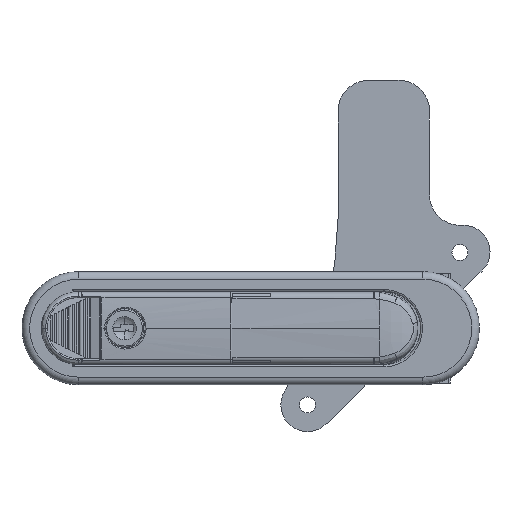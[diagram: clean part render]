
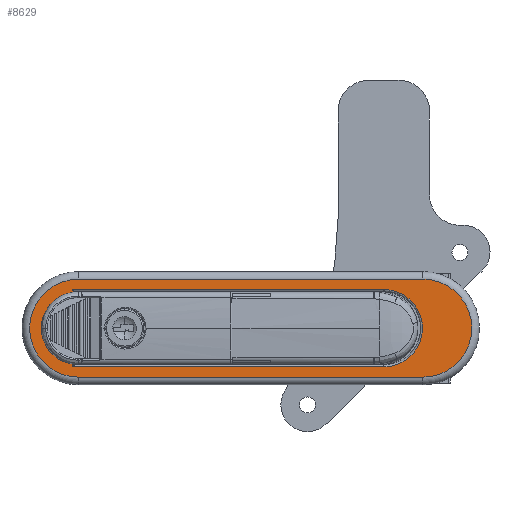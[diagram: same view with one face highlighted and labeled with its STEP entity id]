
A CAD part, front view. The second image highlights one B-rep face of the part: STEP entity #8629.
In plain terms, the highlighted planar face has unit normal (0, -1, 0).
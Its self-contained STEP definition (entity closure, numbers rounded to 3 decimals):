
#865 = VERTEX_POINT ( 'NONE', #16072 ) ;
#2056 = VERTEX_POINT ( 'NONE', #43994 ) ;
#2200 = AXIS2_PLACEMENT_3D ( 'NONE', #45997, #7173, #34847 ) ;
#3390 = EDGE_CURVE ( 'NONE', #11143, #19644, #41270, .T. ) ;
#3420 = EDGE_LOOP ( 'NONE', ( #35296, #30143, #23503, #8283 ) ) ;
#3877 = DIRECTION ( 'NONE',  ( 0., 0., -1. ) ) ;
#3902 = EDGE_CURVE ( 'NONE', #11143, #49751, #34003, .T. ) ;
#4091 = AXIS2_PLACEMENT_3D ( 'NONE', #46299, #11538, #3877 ) ;
#6402 = VECTOR ( 'NONE', #18497, 1000. ) ;
#6450 = AXIS2_PLACEMENT_3D ( 'NONE', #45875, #42071, #7297 ) ;
#7173 = DIRECTION ( 'NONE',  ( 0., 1., 0. ) ) ;
#7297 = DIRECTION ( 'NONE',  ( 0., 0., 1. ) ) ;
#7796 = LINE ( 'NONE', #30164, #6402 ) ;
#8283 = ORIENTED_EDGE ( 'NONE', *, *, #35839, .T. ) ;
#8629 = ADVANCED_FACE ( 'NONE', ( #46746, #19864 ), #42943, .F. ) ;
#9825 = CIRCLE ( 'NONE', #4091, 10.15 ) ;
#10496 = CARTESIAN_POINT ( 'NONE',  ( -50.55, 0., 12.85 ) ) ;
#10755 = CARTESIAN_POINT ( 'NONE',  ( 29.5, 0., -10.15 ) ) ;
#11143 = VERTEX_POINT ( 'NONE', #23247 ) ;
#11538 = DIRECTION ( 'NONE',  ( 0., -1., 0. ) ) ;
#11821 = CARTESIAN_POINT ( 'NONE',  ( -52.13, 0., 10.15 ) ) ;
#12783 = DIRECTION ( 'NONE',  ( 0., 0., 1. ) ) ;
#13117 = DIRECTION ( 'NONE',  ( 0., 0., 1. ) ) ;
#13169 = EDGE_CURVE ( 'NONE', #25464, #865, #49524, .T. ) ;
#13187 = CARTESIAN_POINT ( 'NONE',  ( -52.13, 0., 10.15 ) ) ;
#13555 = CARTESIAN_POINT ( 'NONE',  ( 29.5, 0., 0. ) ) ;
#14486 = DIRECTION ( 'NONE',  ( -0.145, 0., -0.989 ) ) ;
#14536 = EDGE_CURVE ( 'NONE', #30667, #48401, #7796, .T. ) ;
#15232 = VECTOR ( 'NONE', #39468, 1000. ) ;
#15377 = VECTOR ( 'NONE', #33636, 1000. ) ;
#16072 = CARTESIAN_POINT ( 'NONE',  ( -52.13, 0., 9.103 ) ) ;
#17789 = VERTEX_POINT ( 'NONE', #18046 ) ;
#18046 = CARTESIAN_POINT ( 'NONE',  ( 29.672, 0., 10.149 ) ) ;
#18163 = CARTESIAN_POINT ( 'NONE',  ( -50.55, 0., -12.85 ) ) ;
#18497 = DIRECTION ( 'NONE',  ( -1., 0., 0. ) ) ;
#18927 = CARTESIAN_POINT ( 'NONE',  ( 29.75, 0., 12.85 ) ) ;
#19509 = EDGE_CURVE ( 'NONE', #48401, #25464, #44248, .T. ) ;
#19644 = VERTEX_POINT ( 'NONE', #10496 ) ;
#19695 = EDGE_CURVE ( 'NONE', #30667, #17789, #41087, .T. ) ;
#19864 = FACE_OUTER_BOUND ( 'NONE', #3420, .T. ) ;
#20063 = VERTEX_POINT ( 'NONE', #13187 ) ;
#20723 = DIRECTION ( 'NONE',  ( 0., 1., 0. ) ) ;
#21418 = EDGE_CURVE ( 'NONE', #20063, #2056, #27792, .T. ) ;
#21799 = LINE ( 'NONE', #22541, #46328 ) ;
#22427 = DIRECTION ( 'NONE',  ( 0., 0., -1. ) ) ;
#22541 = CARTESIAN_POINT ( 'NONE',  ( -52.13, 0., 9.103 ) ) ;
#22704 = LINE ( 'NONE', #18163, #15377 ) ;
#23247 = CARTESIAN_POINT ( 'NONE',  ( 39.75, 0., 12.85 ) ) ;
#23503 = ORIENTED_EDGE ( 'NONE', *, *, #44744, .F. ) ;
#23694 = ORIENTED_EDGE ( 'NONE', *, *, #43561, .T. ) ;
#23933 = VERTEX_POINT ( 'NONE', #47002 ) ;
#25464 = VERTEX_POINT ( 'NONE', #49445 ) ;
#25843 = DIRECTION ( 'NONE',  ( 0., 0., 1. ) ) ;
#26206 = CIRCLE ( 'NONE', #43173, 12.85 ) ;
#26464 = VECTOR ( 'NONE', #12783, 1000. ) ;
#27767 = CARTESIAN_POINT ( 'NONE',  ( -52.13, 0., -10.15 ) ) ;
#27792 = LINE ( 'NONE', #11821, #15232 ) ;
#29031 = DIRECTION ( 'NONE',  ( 0., -1., 0. ) ) ;
#29986 = ORIENTED_EDGE ( 'NONE', *, *, #19695, .F. ) ;
#30143 = ORIENTED_EDGE ( 'NONE', *, *, #3390, .T. ) ;
#30164 = CARTESIAN_POINT ( 'NONE',  ( -1.3, 0., -10.15 ) ) ;
#30527 = EDGE_LOOP ( 'NONE', ( #31439, #46188, #29986, #35251, #48219, #45338, #23694 ) ) ;
#30667 = VERTEX_POINT ( 'NONE', #10755 ) ;
#31439 = ORIENTED_EDGE ( 'NONE', *, *, #21418, .T. ) ;
#33636 = DIRECTION ( 'NONE',  ( 1., 0., 0. ) ) ;
#33781 = CARTESIAN_POINT ( 'NONE',  ( -50.8, 0., 0. ) ) ;
#34003 = CIRCLE ( 'NONE', #6450, 12.85 ) ;
#34363 = CARTESIAN_POINT ( 'NONE',  ( 39.75, 0., -12.85 ) ) ;
#34524 = CARTESIAN_POINT ( 'NONE',  ( -52.13, 0., -10.15 ) ) ;
#34847 = DIRECTION ( 'NONE',  ( -1., 0., 0. ) ) ;
#35251 = ORIENTED_EDGE ( 'NONE', *, *, #14536, .T. ) ;
#35296 = ORIENTED_EDGE ( 'NONE', *, *, #3902, .F. ) ;
#35839 = EDGE_CURVE ( 'NONE', #23933, #49751, #22704, .T. ) ;
#38647 = AXIS2_PLACEMENT_3D ( 'NONE', #13555, #29031, #22427 ) ;
#39468 = DIRECTION ( 'NONE',  ( 1., 0., 0. ) ) ;
#39767 = CARTESIAN_POINT ( 'NONE',  ( -50.55, 0., 0. ) ) ;
#41087 = CIRCLE ( 'NONE', #38647, 10.15 ) ;
#41270 = LINE ( 'NONE', #18927, #43606 ) ;
#42071 = DIRECTION ( 'NONE',  ( 0., 1., 0. ) ) ;
#42943 = PLANE ( 'NONE',  #2200 ) ;
#43109 = EDGE_CURVE ( 'NONE', #17789, #2056, #9825, .T. ) ;
#43173 = AXIS2_PLACEMENT_3D ( 'NONE', #39767, #20723, #13117 ) ;
#43561 = EDGE_CURVE ( 'NONE', #865, #20063, #21799, .T. ) ;
#43606 = VECTOR ( 'NONE', #48883, 1000. ) ;
#43994 = CARTESIAN_POINT ( 'NONE',  ( 29.5, 0., 10.15 ) ) ;
#44248 = LINE ( 'NONE', #27767, #26464 ) ;
#44744 = EDGE_CURVE ( 'NONE', #23933, #19644, #26206, .T. ) ;
#45338 = ORIENTED_EDGE ( 'NONE', *, *, #13169, .T. ) ;
#45875 = CARTESIAN_POINT ( 'NONE',  ( 39.75, 0., 0. ) ) ;
#45997 = CARTESIAN_POINT ( 'NONE',  ( -20.8, 0., 0. ) ) ;
#46188 = ORIENTED_EDGE ( 'NONE', *, *, #43109, .F. ) ;
#46299 = CARTESIAN_POINT ( 'NONE',  ( 29.5, 0., 0. ) ) ;
#46328 = VECTOR ( 'NONE', #25843, 1000. ) ;
#46746 = FACE_BOUND ( 'NONE', #30527, .T. ) ;
#47002 = CARTESIAN_POINT ( 'NONE',  ( -50.55, 0., -12.85 ) ) ;
#48219 = ORIENTED_EDGE ( 'NONE', *, *, #19509, .T. ) ;
#48401 = VERTEX_POINT ( 'NONE', #34524 ) ;
#48746 = AXIS2_PLACEMENT_3D ( 'NONE', #33781, #49227, #14486 ) ;
#48883 = DIRECTION ( 'NONE',  ( -1., 0., 0. ) ) ;
#49227 = DIRECTION ( 'NONE',  ( 0., 1., 0. ) ) ;
#49445 = CARTESIAN_POINT ( 'NONE',  ( -52.13, 0., -9.103 ) ) ;
#49524 = CIRCLE ( 'NONE', #48746, 9.2 ) ;
#49751 = VERTEX_POINT ( 'NONE', #34363 ) ;
